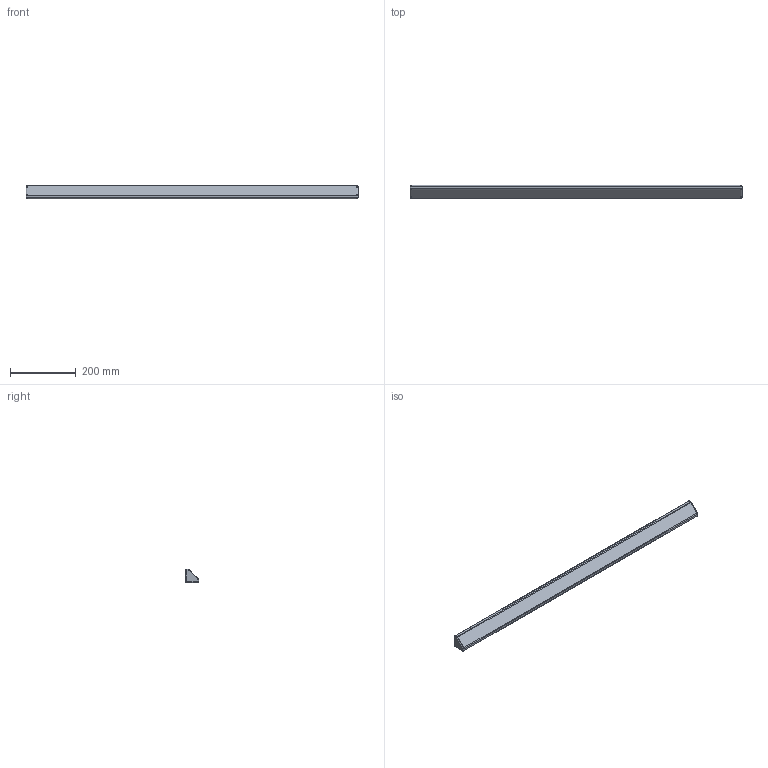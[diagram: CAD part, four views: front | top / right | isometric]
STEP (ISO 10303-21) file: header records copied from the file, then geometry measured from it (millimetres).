
FILE_DESCRIPTION(/* description */ (''),/* implementation_level */ '2;1');
FILE_NAME(/* name */ 'LA-6007-2100-A.stp',/* time_stamp */ '2015-01-28T11:30:27+00:00',/* author */ (''),/* organization */ (''),/* preprocessor_version */ 'ST-DEVELOPER v11',/* originating_system */ 'SIEMENS PLM Software NX 7.5',/* authorisation */ '');
FILE_SCHEMA (('AUTOMOTIVE_DESIGN { 1 0 10303 214 1 1 1 1 }'));
Length unit declared in the file: millimetre
Products named in the file (1): rt13982Avlc1
Bounding box: 1008 x 40 x 40 mm (x, y, z)
Volume: 1197073.1 mm3; surface area: 141069.5 mm2
Topology: 1 solids, 1 shells, 56 faces, 122 edges, 68 vertices
Faces by surface type: plane 19, cylinder 15, bspline 12, cone 10
Entity records: 1962 total; most frequent: CARTESIAN_POINT 437, DIRECTION 256, ORIENTED_EDGE 244, EDGE_CURVE 122, AXIS2_PLACEMENT_3D 95, VERTEX_POINT 68, LINE 66, VECTOR 66
